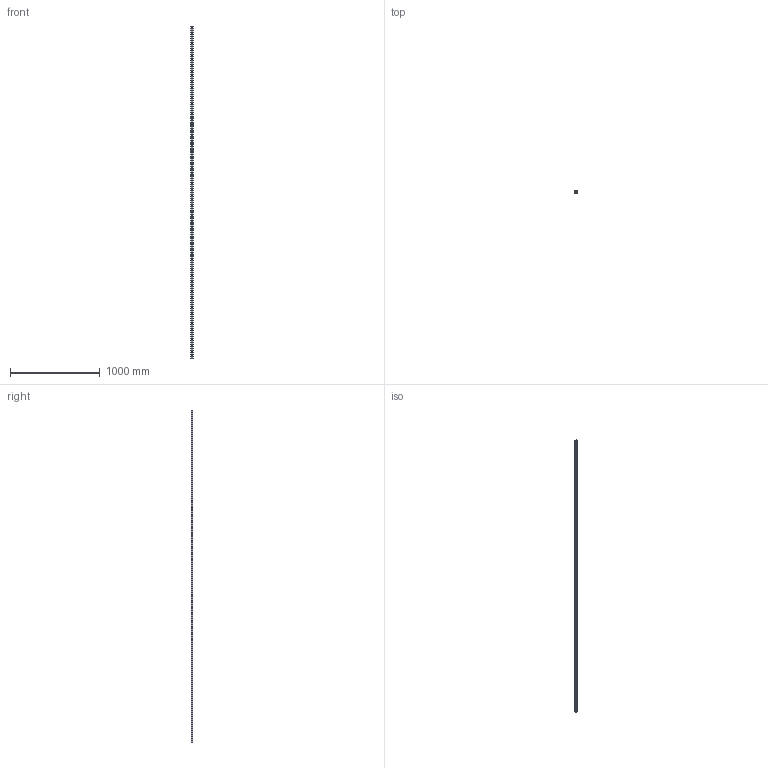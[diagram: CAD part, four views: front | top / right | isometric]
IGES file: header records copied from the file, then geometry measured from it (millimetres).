
Start section: SolidWorks IGES file using analytic representation for surfaces
Global section: file name: C:\Users\IanO\Desktop\L1016_v2\L1016.BL25_v2\L1016.BL25_v2_20160611_IGES\L1016.BL25-3700.igs; native system: SolidWorks 2017; preprocessor: SolidWorks 2017; author: IanO; date: 190612.131633; units: millimetre
Bounding box: 23 x 19.2 x 3700 mm (x, y, z)
Surface area: 349849.7 mm2 (no closed solid volume)
Topology: 0 solids, 0 shells, 336 faces, 9096 edges, 9096 vertices
Faces by surface type: revolution 252, bspline 84
